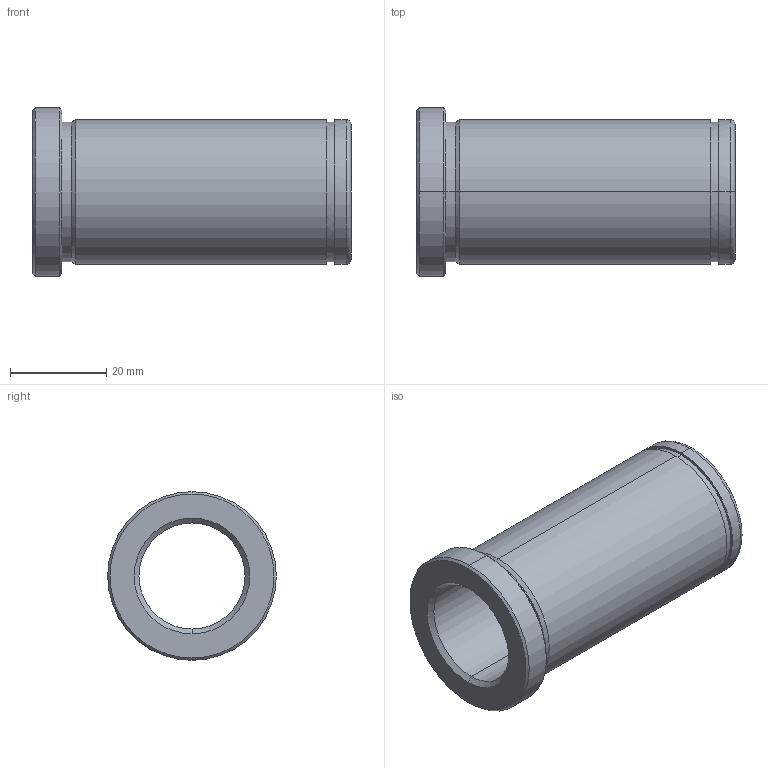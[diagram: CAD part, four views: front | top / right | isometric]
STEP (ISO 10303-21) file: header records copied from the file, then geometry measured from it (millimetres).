
FILE_DESCRIPTION(('CATIA V5 STEP Exchange'),'2;1');
FILE_NAME('C:\Users\Utente\Desktop\IO LAVORO\3D X SITO CF\X SITO\PLASTICA\553\553-22X66.stp','2021-05-25T18:09:35+00:00',('none'),('none'),'CATIA Version 5 Release 20 GA (IN-10)','CATIA V5 STEP AP203','none');
FILE_SCHEMA(('CONFIG_CONTROL_DESIGN'));
Length unit declared in the file: millimetre
Products named in the file (1): 553-22X66
Bounding box: 66 x 35 x 35 mm (x, y, z)
Volume: 22791.2 mm3; surface area: 11990.3 mm2
Topology: 1 solids, 1 shells, 29 faces, 92 edges, 68 vertices
Faces by surface type: cylinder 12, cone 8, plane 5, torus 4
Entity records: 1222 total; most frequent: CARTESIAN_POINT 368, ORIENTED_EDGE 184, DIRECTION 136, EDGE_CURVE 92, AXIS2_PLACEMENT_3D 88, VERTEX_POINT 68, CIRCLE 58, EDGE_LOOP 34
